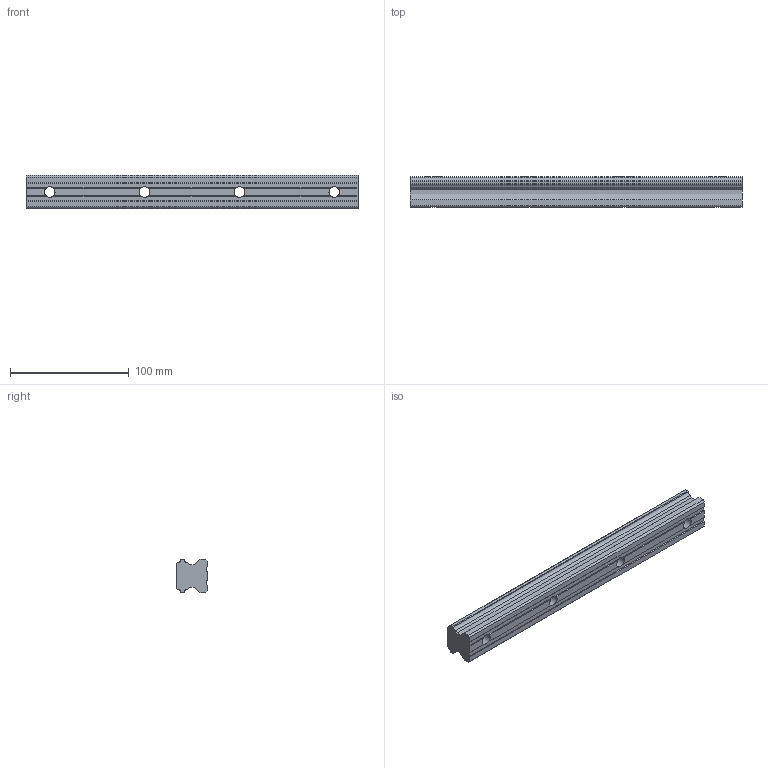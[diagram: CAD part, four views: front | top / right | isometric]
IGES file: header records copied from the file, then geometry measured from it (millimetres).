
Start section: Data from Parasolid IGES Translator 26.0.171, Copyright(c) 2006 Siemens PLM Software. All Rights Reserved.
Global section: file name: HSR30-280L(GK) RAIL(20).igs; native system: By Siemens PLM Incorporated; preprocessor: XPlus GENERIC/IGES 26.0.171; author: Noname; organization: Noname; date: 20240521.044435; units: millimetre
Bounding box: 280 x 26 x 28 mm (x, y, z)
Surface area: 35620.9 mm2 (no closed solid volume)
Topology: 0 solids, 0 shells, 58 faces, 336 edges, 324 vertices
Faces by surface type: extrusion 46, revolution 12
